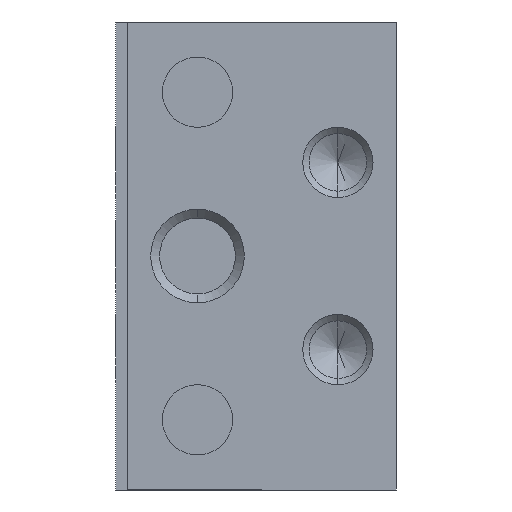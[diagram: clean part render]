
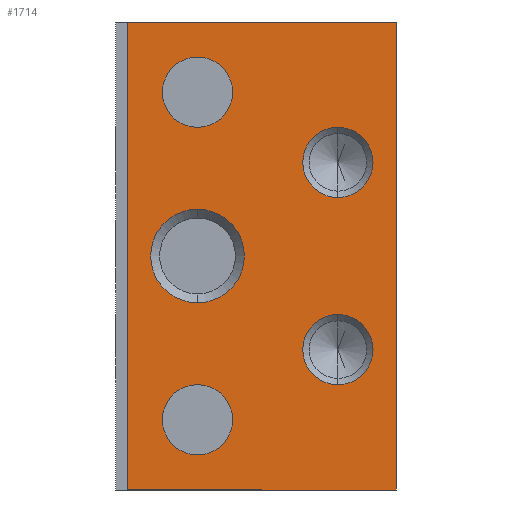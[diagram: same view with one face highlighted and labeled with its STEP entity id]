
A CAD part, left-side view. The second image highlights one B-rep face of the part: STEP entity #1714.
In plain terms, the highlighted planar face has unit normal (-1, 0, 0).
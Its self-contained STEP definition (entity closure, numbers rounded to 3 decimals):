
#20 = CIRCLE ( 'NONE', #79, 1.5 ) ;
#31 = DIRECTION ( 'NONE',  ( 0., 0., -1. ) ) ;
#47 = CARTESIAN_POINT ( 'NONE',  ( -10., 2.5, 4. ) ) ;
#49 = AXIS2_PLACEMENT_3D ( 'NONE', #3345, #85, #1978 ) ;
#59 = VECTOR ( 'NONE', #1732, 1000. ) ;
#79 = AXIS2_PLACEMENT_3D ( 'NONE', #47, #1760, #3374 ) ;
#85 = DIRECTION ( 'NONE',  ( -1., 0., 0. ) ) ;
#151 = CARTESIAN_POINT ( 'NONE',  ( -10., 8.5, 7. ) ) ;
#204 = DIRECTION ( 'NONE',  ( 0., 0., -1. ) ) ;
#205 = CARTESIAN_POINT ( 'NONE',  ( -10., 2.5, 2.5 ) ) ;
#264 = VERTEX_POINT ( 'NONE', #205 ) ;
#270 = DIRECTION ( 'NONE',  ( 1., 0., 0. ) ) ;
#282 = ORIENTED_EDGE ( 'NONE', *, *, #1152, .F. ) ;
#304 = CIRCLE ( 'NONE', #1290, 1.5 ) ;
#358 = EDGE_CURVE ( 'NONE', #1069, #2994, #3550, .T. ) ;
#375 = EDGE_LOOP ( 'NONE', ( #565, #3311 ) ) ;
#447 = DIRECTION ( 'NONE',  ( 0., 0., -1. ) ) ;
#462 = ORIENTED_EDGE ( 'NONE', *, *, #358, .F. ) ;
#465 = DIRECTION ( 'NONE',  ( -1., 0., 0. ) ) ;
#522 = AXIS2_PLACEMENT_3D ( 'NONE', #1169, #3348, #1928 ) ;
#545 = CARTESIAN_POINT ( 'NONE',  ( -10., 2.5, 4. ) ) ;
#565 = ORIENTED_EDGE ( 'NONE', *, *, #1536, .F. ) ;
#578 = AXIS2_PLACEMENT_3D ( 'NONE', #1813, #2908, #447 ) ;
#582 = CIRCLE ( 'NONE', #522, 1.5 ) ;
#602 = DIRECTION ( 'NONE',  ( 0., 0., -1. ) ) ;
#633 = VECTOR ( 'NONE', #1406, 1000. ) ;
#634 = CARTESIAN_POINT ( 'NONE',  ( -10., 8.5, 2. ) ) ;
#661 = AXIS2_PLACEMENT_3D ( 'NONE', #1107, #270, #859 ) ;
#663 = ORIENTED_EDGE ( 'NONE', *, *, #2688, .F. ) ;
#684 = EDGE_LOOP ( 'NONE', ( #2723, #2130 ) ) ;
#687 = CARTESIAN_POINT ( 'NONE',  ( -10., 2.5, -4. ) ) ;
#705 = VECTOR ( 'NONE', #2309, 1000. ) ;
#713 = FACE_BOUND ( 'NONE', #684, .T. ) ;
#762 = AXIS2_PLACEMENT_3D ( 'NONE', #1134, #3310, #3064 ) ;
#847 = CARTESIAN_POINT ( 'NONE',  ( -10., 11.5, -10. ) ) ;
#859 = DIRECTION ( 'NONE',  ( 0., 0., -1. ) ) ;
#862 = EDGE_CURVE ( 'NONE', #2861, #2580, #1310, .T. ) ;
#902 = CARTESIAN_POINT ( 'NONE',  ( -10., 2.5, -5.5 ) ) ;
#903 = LINE ( 'NONE', #2272, #59 ) ;
#909 = EDGE_CURVE ( 'NONE', #264, #2739, #1391, .T. ) ;
#961 = VERTEX_POINT ( 'NONE', #1093 ) ;
#964 = FACE_BOUND ( 'NONE', #1790, .T. ) ;
#976 = DIRECTION ( 'NONE',  ( 0., 0., 1. ) ) ;
#999 = PLANE ( 'NONE',  #578 ) ;
#1002 = DIRECTION ( 'NONE',  ( -1., 0., 0. ) ) ;
#1010 = EDGE_LOOP ( 'NONE', ( #3054, #1823 ) ) ;
#1056 = CARTESIAN_POINT ( 'NONE',  ( -10., 2.5, -2.5 ) ) ;
#1069 = VERTEX_POINT ( 'NONE', #2257 ) ;
#1093 = CARTESIAN_POINT ( 'NONE',  ( -10., 8.5, -8.5 ) ) ;
#1107 = CARTESIAN_POINT ( 'NONE',  ( -10., 2.5, -4. ) ) ;
#1134 = CARTESIAN_POINT ( 'NONE',  ( -10., 8.5, 0. ) ) ;
#1152 = EDGE_CURVE ( 'NONE', #2994, #1069, #3029, .T. ) ;
#1169 = CARTESIAN_POINT ( 'NONE',  ( -10., 8.5, -7. ) ) ;
#1187 = VERTEX_POINT ( 'NONE', #3218 ) ;
#1265 = FACE_OUTER_BOUND ( 'NONE', #1645, .T. ) ;
#1290 = AXIS2_PLACEMENT_3D ( 'NONE', #687, #2925, #204 ) ;
#1310 = LINE ( 'NONE', #2383, #633 ) ;
#1313 = AXIS2_PLACEMENT_3D ( 'NONE', #3383, #1002, #1541 ) ;
#1327 = CARTESIAN_POINT ( 'NONE',  ( -10., 0., 10. ) ) ;
#1378 = VERTEX_POINT ( 'NONE', #2495 ) ;
#1391 = CIRCLE ( 'NONE', #2004, 1.5 ) ;
#1406 = DIRECTION ( 'NONE',  ( 0., 1., 0. ) ) ;
#1423 = ORIENTED_EDGE ( 'NONE', *, *, #862, .F. ) ;
#1474 = LINE ( 'NONE', #2809, #705 ) ;
#1497 = VERTEX_POINT ( 'NONE', #902 ) ;
#1520 = VERTEX_POINT ( 'NONE', #634 ) ;
#1536 = EDGE_CURVE ( 'NONE', #2450, #961, #3382, .T. ) ;
#1541 = DIRECTION ( 'NONE',  ( 0., 0., 1. ) ) ;
#1554 = DIRECTION ( 'NONE',  ( 0., 0., -1. ) ) ;
#1576 = CARTESIAN_POINT ( 'NONE',  ( -10., 8.5, -5.5 ) ) ;
#1622 = CARTESIAN_POINT ( 'NONE',  ( -10., 8.5, 5.5 ) ) ;
#1642 = EDGE_CURVE ( 'NONE', #1378, #1520, #2577, .T. ) ;
#1645 = EDGE_LOOP ( 'NONE', ( #2983, #663, #1423, #3503 ) ) ;
#1667 = VECTOR ( 'NONE', #31, 1000. ) ;
#1714 = ADVANCED_FACE ( 'NONE', ( #3213, #964, #713, #2946, #3143, #1265 ), #999, .F. ) ;
#1732 = DIRECTION ( 'NONE',  ( 0., -1., 0. ) ) ;
#1760 = DIRECTION ( 'NONE',  ( 1., 0., 0. ) ) ;
#1790 = EDGE_LOOP ( 'NONE', ( #2725, #2487 ) ) ;
#1813 = CARTESIAN_POINT ( 'NONE',  ( -10., 0., 0. ) ) ;
#1823 = ORIENTED_EDGE ( 'NONE', *, *, #909, .T. ) ;
#1847 = DIRECTION ( 'NONE',  ( 1., 0., 0. ) ) ;
#1928 = DIRECTION ( 'NONE',  ( 0., 0., 1. ) ) ;
#1978 = DIRECTION ( 'NONE',  ( 0., 0., 1. ) ) ;
#2004 = AXIS2_PLACEMENT_3D ( 'NONE', #545, #2776, #602 ) ;
#2051 = VERTEX_POINT ( 'NONE', #1056 ) ;
#2093 = CARTESIAN_POINT ( 'NONE',  ( -10., 8.5, 0. ) ) ;
#2130 = ORIENTED_EDGE ( 'NONE', *, *, #1642, .T. ) ;
#2194 = EDGE_CURVE ( 'NONE', #961, #2450, #582, .T. ) ;
#2230 = EDGE_CURVE ( 'NONE', #1520, #1378, #2289, .T. ) ;
#2257 = CARTESIAN_POINT ( 'NONE',  ( -10., 8.5, 8.5 ) ) ;
#2272 = CARTESIAN_POINT ( 'NONE',  ( -10., 11.5, 10. ) ) ;
#2289 = CIRCLE ( 'NONE', #762, 2. ) ;
#2309 = DIRECTION ( 'NONE',  ( 0., 0., 1. ) ) ;
#2383 = CARTESIAN_POINT ( 'NONE',  ( -10., 11.5, -10. ) ) ;
#2410 = VERTEX_POINT ( 'NONE', #1327 ) ;
#2450 = VERTEX_POINT ( 'NONE', #1576 ) ;
#2481 = LINE ( 'NONE', #3330, #1667 ) ;
#2487 = ORIENTED_EDGE ( 'NONE', *, *, #3292, .T. ) ;
#2495 = CARTESIAN_POINT ( 'NONE',  ( -10., 8.5, -2. ) ) ;
#2577 = CIRCLE ( 'NONE', #3434, 2. ) ;
#2580 = VERTEX_POINT ( 'NONE', #847 ) ;
#2599 = EDGE_CURVE ( 'NONE', #2410, #2861, #2481, .T. ) ;
#2601 = CIRCLE ( 'NONE', #661, 1.5 ) ;
#2688 = EDGE_CURVE ( 'NONE', #2580, #1187, #1474, .T. ) ;
#2723 = ORIENTED_EDGE ( 'NONE', *, *, #2230, .T. ) ;
#2725 = ORIENTED_EDGE ( 'NONE', *, *, #2996, .T. ) ;
#2739 = VERTEX_POINT ( 'NONE', #2876 ) ;
#2776 = DIRECTION ( 'NONE',  ( 1., 0., 0. ) ) ;
#2791 = EDGE_CURVE ( 'NONE', #1187, #2410, #903, .T. ) ;
#2809 = CARTESIAN_POINT ( 'NONE',  ( -10., 11.5, 10. ) ) ;
#2861 = VERTEX_POINT ( 'NONE', #3180 ) ;
#2863 = AXIS2_PLACEMENT_3D ( 'NONE', #151, #465, #976 ) ;
#2871 = EDGE_LOOP ( 'NONE', ( #462, #282 ) ) ;
#2876 = CARTESIAN_POINT ( 'NONE',  ( -10., 2.5, 5.5 ) ) ;
#2908 = DIRECTION ( 'NONE',  ( 1., 0., 0. ) ) ;
#2925 = DIRECTION ( 'NONE',  ( 1., 0., 0. ) ) ;
#2946 = FACE_BOUND ( 'NONE', #2871, .T. ) ;
#2983 = ORIENTED_EDGE ( 'NONE', *, *, #2791, .F. ) ;
#2994 = VERTEX_POINT ( 'NONE', #1622 ) ;
#2996 = EDGE_CURVE ( 'NONE', #2051, #1497, #2601, .T. ) ;
#3029 = CIRCLE ( 'NONE', #1313, 1.5 ) ;
#3054 = ORIENTED_EDGE ( 'NONE', *, *, #3214, .T. ) ;
#3064 = DIRECTION ( 'NONE',  ( 0., 0., -1. ) ) ;
#3143 = FACE_BOUND ( 'NONE', #375, .T. ) ;
#3180 = CARTESIAN_POINT ( 'NONE',  ( -10., 0., -10. ) ) ;
#3213 = FACE_BOUND ( 'NONE', #1010, .T. ) ;
#3214 = EDGE_CURVE ( 'NONE', #2739, #264, #20, .T. ) ;
#3218 = CARTESIAN_POINT ( 'NONE',  ( -10., 11.5, 10. ) ) ;
#3292 = EDGE_CURVE ( 'NONE', #1497, #2051, #304, .T. ) ;
#3310 = DIRECTION ( 'NONE',  ( 1., 0., 0. ) ) ;
#3311 = ORIENTED_EDGE ( 'NONE', *, *, #2194, .F. ) ;
#3330 = CARTESIAN_POINT ( 'NONE',  ( -10., 0., 10. ) ) ;
#3345 = CARTESIAN_POINT ( 'NONE',  ( -10., 8.5, -7. ) ) ;
#3348 = DIRECTION ( 'NONE',  ( -1., 0., 0. ) ) ;
#3374 = DIRECTION ( 'NONE',  ( 0., 0., -1. ) ) ;
#3382 = CIRCLE ( 'NONE', #49, 1.5 ) ;
#3383 = CARTESIAN_POINT ( 'NONE',  ( -10., 8.5, 7. ) ) ;
#3434 = AXIS2_PLACEMENT_3D ( 'NONE', #2093, #1847, #1554 ) ;
#3503 = ORIENTED_EDGE ( 'NONE', *, *, #2599, .F. ) ;
#3550 = CIRCLE ( 'NONE', #2863, 1.5 ) ;
